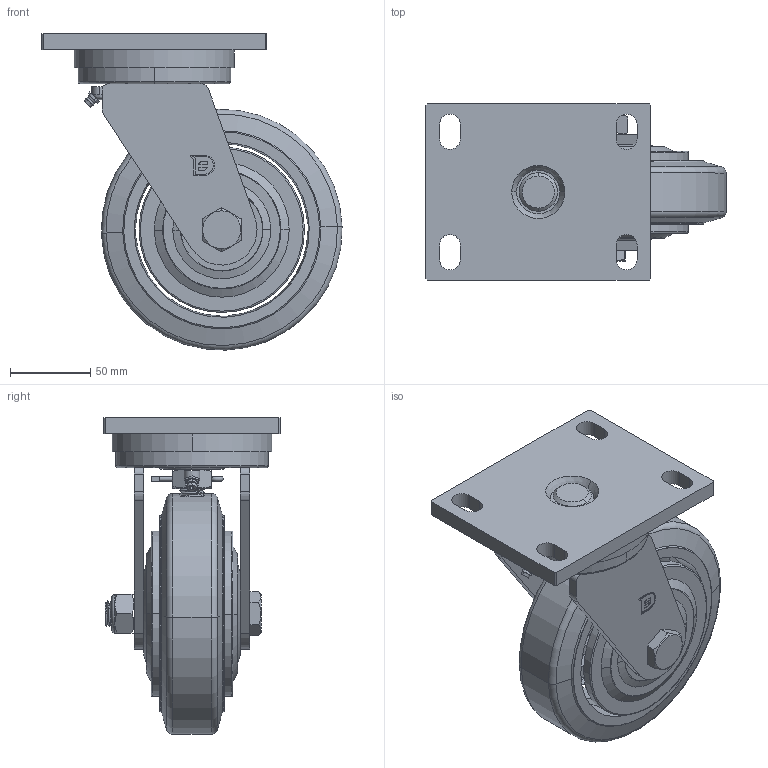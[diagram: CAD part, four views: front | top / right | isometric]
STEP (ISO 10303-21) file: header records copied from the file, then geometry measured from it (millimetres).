
FILE_DESCRIPTION((''),'2;1');
FILE_NAME('PRT0002','2025-04-09T11:28:01',('Administrator'),(''),'CREO PARAMETRIC BY PTC INC, 2022124','CREO PARAMETRIC BY PTC INC, 2022124','');
FILE_SCHEMA(('CONFIG_CONTROL_DESIGN','GEOMETRIC_VALIDATION_PROPERTIES_MIM'));
Length unit declared in the file: millimetre
Products named in the file (1): PRT0002
Bounding box: 186.97 x 110 x 196.97 mm (x, y, z)
Surface area: 143107.3 mm2 (no closed solid volume)
Topology: 0 solids, 30 shells, 173 faces, 565 edges, 420 vertices
Faces by surface type: plane 76, cone 38, cylinder 29, torus 25, bspline 5
Entity records: 9058 total; most frequent: CARTESIAN_POINT 2950, DIRECTION 1024, ORIENTED_EDGE 866, EDGE_CURVE 565, VERTEX_POINT 420, AXIS2_PLACEMENT_3D 402, CIRCLE 234, VECTOR 220
